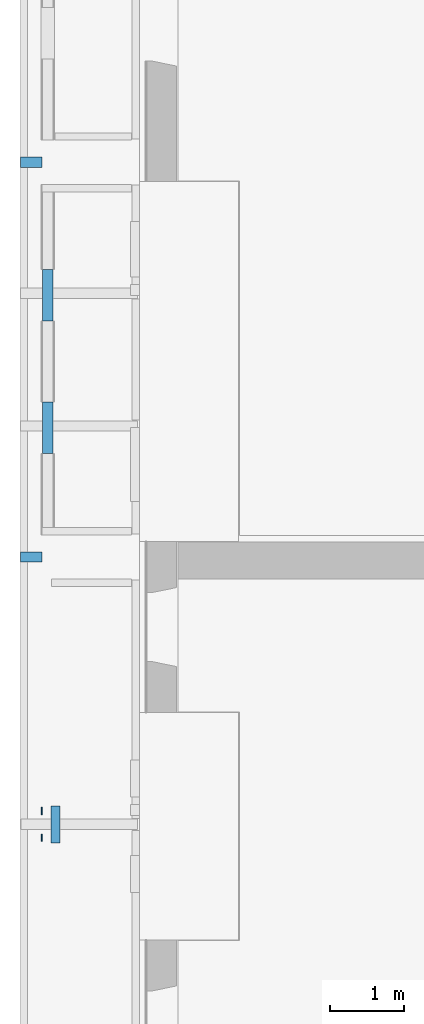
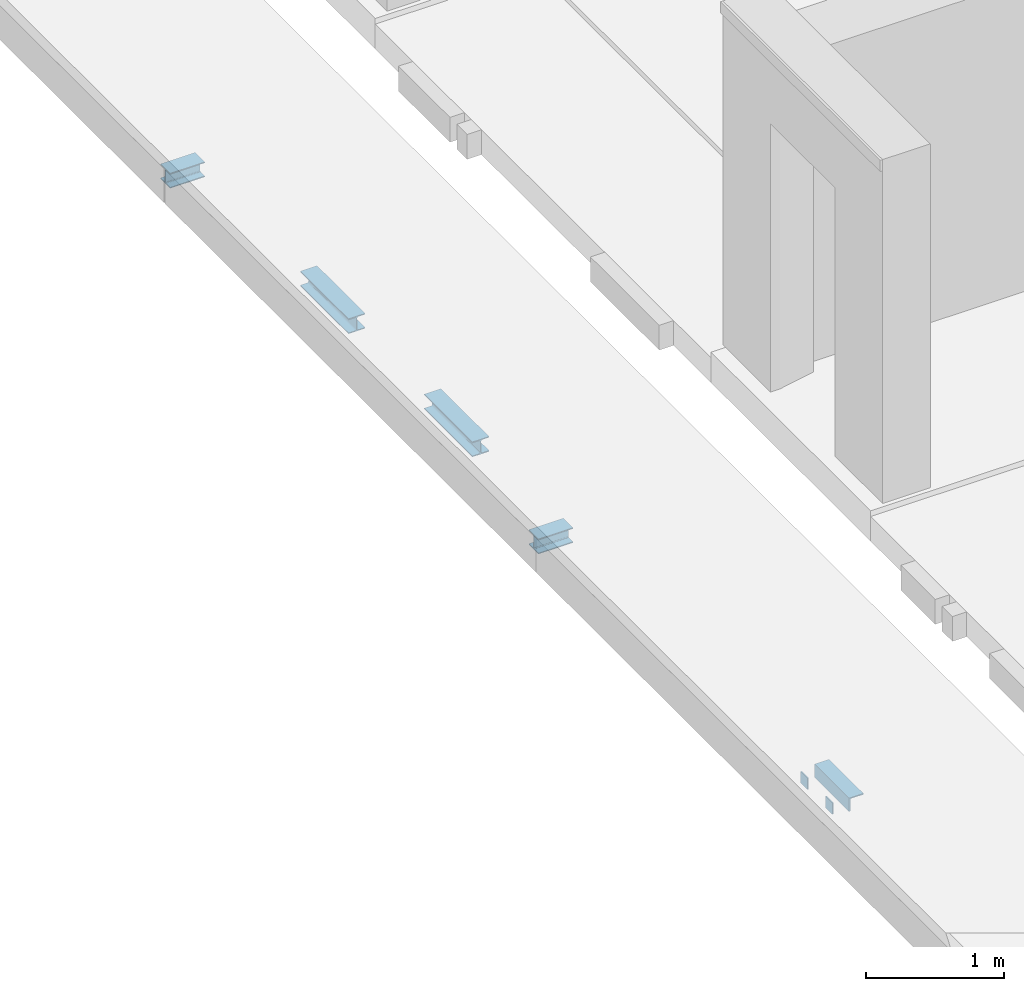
# One storey, part 15 of 27: 7 beams.
"""IFC2X3 building model written with IfcOpenShell, lengths in millimetres."""

from ifc_helpers import new_model, entity, si_unit, converted_unit, derived_unit, direction, frame, frame_2d, origin, origin_2d_with_axis, place, context, subcontext, project, spatial, polyline, circle_curve, parameter, trimmed, segment, composite_curve, rectangle, i_section, outline, extrude, source, transform, mapped, material, type_object, type_shapes, element, save


model = new_model("IFC2X3")

# Units and contexts
model_context = context("Model", 3, precision=0.01, world=origin(), true_north=direction((6.12303176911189e-17, 1.0)))
body_context = subcontext(model_context, "Body", "Model", "MODEL_VIEW")
ifc_project = project(units=[si_unit("LENGTHUNIT", "METRE", prefix="MILLI"), si_unit("AREAUNIT", "SQUARE_METRE"), si_unit("VOLUMEUNIT", "CUBIC_METRE"), converted_unit("PLANEANGLEUNIT", "DEGREE", entity("IfcRatioMeasure", 0.0174532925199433), si_unit("PLANEANGLEUNIT", "RADIAN"), dimensions=[0, 0, 0, 0, 0, 0, 0]), si_unit("MASSUNIT", "GRAM", prefix="KILO"), derived_unit("MASSDENSITYUNIT", [(si_unit("MASSUNIT", "GRAM", prefix="KILO"), 1), (si_unit("LENGTHUNIT", "METRE"), -3)]), si_unit("TIMEUNIT", "SECOND"), si_unit("FREQUENCYUNIT", "HERTZ"), si_unit("THERMODYNAMICTEMPERATUREUNIT", "DEGREE_CELSIUS"), derived_unit("THERMALTRANSMITTANCEUNIT", [(si_unit("MASSUNIT", "GRAM", prefix="KILO"), 1), (si_unit("THERMODYNAMICTEMPERATUREUNIT", "KELVIN"), -1), (si_unit("TIMEUNIT", "SECOND"), -3)]), derived_unit("VOLUMETRICFLOWRATEUNIT", [(si_unit("LENGTHUNIT", "METRE"), 3), (si_unit("TIMEUNIT", "SECOND"), -1)]), si_unit("ELECTRICCURRENTUNIT", "AMPERE"), si_unit("ELECTRICVOLTAGEUNIT", "VOLT"), si_unit("POWERUNIT", "WATT"), si_unit("FORCEUNIT", "NEWTON", prefix="KILO"), si_unit("ILLUMINANCEUNIT", "LUX"), si_unit("LUMINOUSFLUXUNIT", "LUMEN"), si_unit("LUMINOUSINTENSITYUNIT", "CANDELA"), derived_unit("USERDEFINED", [(si_unit("MASSUNIT", "GRAM", prefix="KILO"), -1), (si_unit("LENGTHUNIT", "METRE"), -2), (si_unit("TIMEUNIT", "SECOND"), 3), (si_unit("LUMINOUSFLUXUNIT", "LUMEN"), 1)]), derived_unit("LINEARVELOCITYUNIT", [(si_unit("LENGTHUNIT", "METRE"), 1), (si_unit("TIMEUNIT", "SECOND"), -1)]), si_unit("PRESSUREUNIT", "PASCAL"), derived_unit("USERDEFINED", [(si_unit("LENGTHUNIT", "METRE"), -2), (si_unit("MASSUNIT", "GRAM", prefix="KILO"), 1), (si_unit("TIMEUNIT", "SECOND"), -2)])], contexts=[model_context])

# Site, building, storey
site_placement = place(None, origin())
site = spatial("IfcSite", under=ifc_project, at=site_placement, Name="Default", CompositionType="ELEMENT")
building_placement = place(site_placement, origin())
building = spatial("IfcBuilding", under=site, at=building_placement, Name="niet gebruiken", CompositionType="ELEMENT")
storey_placement = place(building_placement, frame((0.0, 0.0, 18000.0)))
storey = spatial("IfcBuildingStorey", under=building, at=storey_placement, Name="05 vijfde verdieping", CompositionType="ELEMENT", Elevation=18000.0)

# Beams
ifc_material = material(Name="NLRS_h2_staal")
beam_type_1 = type_object("IfcBeamType", Name="NLRS_28.11_SF_WPB_stalen ligger HEA_gen:ligger HEA 140", PredefinedType="BEAM")
beam_1_placement = place(storey_placement, frame((124700.0, 30100.0, -1015.0), z_axis=(0.0, 0.0, 1.0), x_axis=(-1.0, 0.0, 0.0)))
element("IfcBeam", 1, at=beam_1_placement, inside=storey, type_object=beam_type_1, material=ifc_material, Name="NLRS_28.11_SF_WPB_stalen ligger HEA_gen:ligger HEA 140", ObjectType="NLRS_28.11_SF_WPB_stalen ligger HEA_gen:ligger HEA 140", context=body_context, shape_type="SweptSolid", body=[
    extrude(i_section(OverallWidth=140.000000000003, OverallDepth=133.0, WebThickness=5.49999999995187, FlangeThickness=8.49999999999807, FilletRadius=12.0000000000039, at=frame_2d((-4.33431068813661e-12, 4.32720526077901e-12), x_axis=(0.0, 1.0))), frame((0.0, 0.0, -66.5000000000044), z_axis=(1.0, 0.0, 0.0), x_axis=(0.0, 0.0, -1.0)), (0.0, 0.0, 1.0), 289.999999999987),
])
beam_2_placement = place(storey_placement, frame((124700.0, 24750.0, -1015.0), z_axis=(0.0, 0.0, 1.0), x_axis=(-1.0, 0.0, 0.0)))
element("IfcBeam", 2, at=beam_2_placement, inside=storey, type_object=beam_type_1, material=ifc_material, Name="NLRS_28.11_SF_WPB_stalen ligger HEA_gen:ligger HEA 140", ObjectType="NLRS_28.11_SF_WPB_stalen ligger HEA_gen:ligger HEA 140", context=body_context, shape_type="SweptSolid", body=[
    extrude(i_section(OverallWidth=140.000000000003, OverallDepth=133.0, WebThickness=5.49999999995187, FlangeThickness=8.49999999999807, FilletRadius=12.0000000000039, at=frame_2d((-4.33431068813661e-12, 0.0), x_axis=(0.0, 1.0))), frame((0.0, 0.0, -66.5000000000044), z_axis=(1.0, 0.0, 0.0), x_axis=(0.0, 0.0, -1.0)), (0.0, 0.0, 1.0), 289.999999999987),
])
for number, where, z_axis, x_axis, name in (
    (3, (124775.0, 28650.0, -1148.0), (0.0, 0.0, 1.0), (0.0, -1.0, 0.0), "NLRS_28.11_SF_WPB_stalen ligger HEA_gen:ligger HEA 140"),
    (4, (124775.0, 26850.0, -1148.0), (0.0, 0.0, 1.0), (0.0, -1.0, 0.0), "NLRS_28.11_SF_WPB_stalen ligger HEA_gen:ligger HEA 140"),
):
    element("IfcBeam", number, at=place(storey_placement, frame(where, z_axis=z_axis, x_axis=x_axis)), inside=storey, type_object=beam_type_1, material=ifc_material, Name=name, ObjectType="NLRS_28.11_SF_WPB_stalen ligger HEA_gen:ligger HEA 140", context=body_context, shape_type="SweptSolid", body=[
        extrude(i_section(OverallWidth=140.000000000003, OverallDepth=133.000000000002, WebThickness=5.49999999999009, FlangeThickness=8.50000000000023, FilletRadius=11.9999999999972, at=frame_2d((1.08002495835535e-12, -1.73301373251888e-11), x_axis=(0.0, 1.0))), frame((0.0, 0.0, -66.5), z_axis=(1.0, 0.0, 0.0), x_axis=(0.0, 0.0, -1.0)), (0.0, 0.0, 1.0), 700.000000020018),
    ])
beam_type_2 = type_object("IfcBeamType", Name="NLRS_28.11_SF_WPB_stalen ligger hoekprofiel gelijkzijdig_gen:ligger gelijzijdig hoekprofiel LEQU_120x120x12_!", PredefinedType="BEAM")
beam_3_placement = place(storey_placement, frame((124840.0, 20895.0, -1268.0), z_axis=(0.0, 0.0, 1.0), x_axis=(0.0, 1.0, 0.0)))
element("IfcBeam", 5, at=beam_3_placement, inside=storey, type_object=beam_type_2, material=ifc_material, Name="NLRS_28.11_SF_WPB_stalen ligger hoekprofiel gelijkzijdig_gen:ligger gelijzijdig hoekprofiel LEQU_120x120x12_!", ObjectType="NLRS_28.11_SF_WPB_stalen ligger hoekprofiel gelijkzijdig_gen:ligger gelijzijdig hoekprofiel LEQU_120x120x12_!", context=body_context, shape_type="SweptSolid", body=[
    extrude(outline(composite_curve([segment(polyline([(-44.4444444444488, -75.5555555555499), (-40.4444444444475, -75.5555555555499)]), True, "CONTINUOUS"), segment(trimmed(circle_curve(frame_2d((-40.4444444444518, -69.555555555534), x_axis=(0.0, -1.0)), 6.00000000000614), [parameter(0.0)], [parameter(89.9999999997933)], True, "PARAMETER"), True, "CONTINUOUS"), segment(polyline([(-34.4444444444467, -69.5555555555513), (-34.4444444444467, 22.4444444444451)]), True, "CONTINUOUS"), segment(trimmed(circle_curve(frame_2d((-22.4444444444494, 22.4444444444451), x_axis=(-1.0, 0.0)), 11.9999999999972), [parameter(269.99999999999)], [parameter(0.0)], True, "PARAMETER"), False, "CONTINUOUS"), segment(polyline([(-22.4444444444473, 34.4444444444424), (69.5555555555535, 34.4444444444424)]), True, "CONTINUOUS"), segment(trimmed(circle_curve(frame_2d((69.555555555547, 40.4444444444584), x_axis=(0.0, -1.0)), 6.00000000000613), [parameter(0.0)], [parameter(89.9999999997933)], True, "PARAMETER"), True, "CONTINUOUS"), segment(polyline([(75.5555555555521, 40.444444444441), (75.5555555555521, 44.4444444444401)]), True, "CONTINUOUS"), segment(polyline([(75.5555555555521, 44.4444444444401), (-44.4444444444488, 44.4444444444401)]), True, "CONTINUOUS"), segment(polyline([(-44.4444444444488, 44.4444444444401), (-44.4444444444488, -75.5555555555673)]), True, "CONTINUOUS")], self_intersect=False)), frame((-20.0, -24.4444444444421, 75.5555555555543), z_axis=(1.0, 0.0, 0.0), x_axis=(0.0, 0.0, -1.0)), (0.0, 0.0, 1.0), 499.999999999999),
])
beam_type_3 = type_object("IfcBeamType", Name="ligger stripstaal RECT_100x10 gedraaid", PredefinedType="BEAM", material=ifc_material)
shared_shape = source(origin(), body_context, "Body", "SweptSolid", [
    extrude(rectangle(XDim=100.0, YDim=9.99999999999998, at=origin_2d_with_axis()), frame((0.0, 0.0, -50.0), z_axis=(0.0, 0.0, 1.0), x_axis=(-1.0, 0.0, 0.0)), (0.0, 0.0, 1.0), 100.0),
    extrude(rectangle(XDim=100.0, YDim=9.99999999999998, at=origin_2d_with_axis()), frame((0.0, 0.0, -50.0), z_axis=(0.0, 0.0, 1.0), x_axis=(-1.0, 0.0, 0.0)), (0.0, 0.0, 1.0), 100.0),
])
type_shapes(beam_type_3, [shared_shape])
for number, where, z_axis, x_axis, name in (
    (6, (124695.0, 20945.0, -1208.0), (0.0, 0.0, 1.0), (0.0, 1.0, 0.0), "NLRS_28.11_SF_WPB_stalen ligger stripstaal_gen:ligger stripstaal RECT_100x10 gedraaid"),
    (7, (124695.0, 21305.0, -1208.0), (0.0, 0.0, 1.0), (0.0, 1.0, 0.0), "NLRS_28.11_SF_WPB_stalen ligger stripstaal_gen:ligger stripstaal RECT_100x10 gedraaid"),
):
    element("IfcBeam", number, at=place(storey_placement, frame(where, z_axis=z_axis, x_axis=x_axis)), inside=storey, type_object=beam_type_3, material=ifc_material, Name=name, ObjectType="ligger stripstaal RECT_100x10 gedraaid", context=body_context, shape_type="MappedRepresentation", body=[
        mapped(shared_shape, transform((0.0, 0.0, 0.0), scale=1.0)),
    ])

save(model, "model.ifc")
